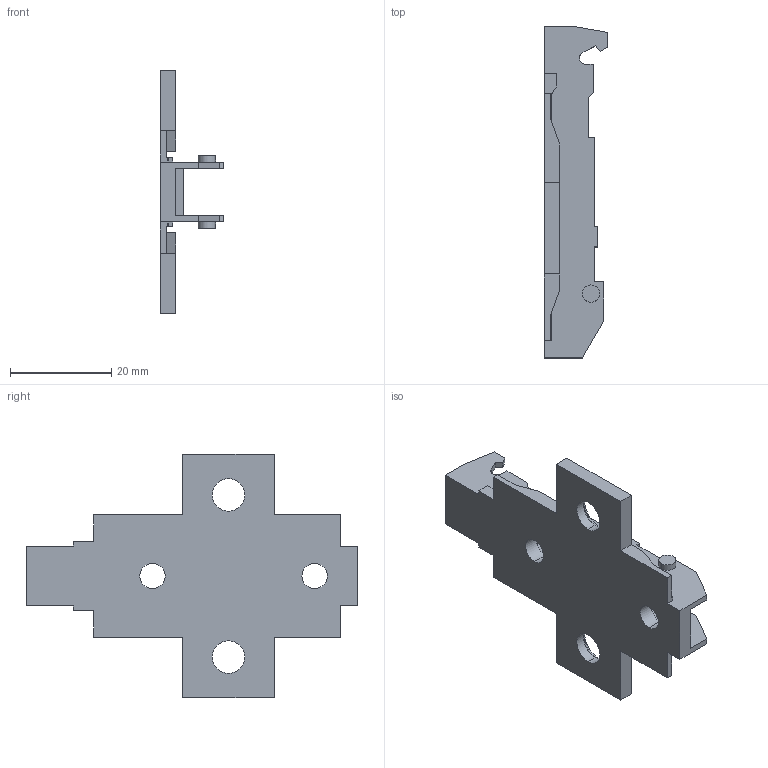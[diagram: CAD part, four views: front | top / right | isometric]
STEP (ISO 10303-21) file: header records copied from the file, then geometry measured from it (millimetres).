
FILE_DESCRIPTION (( 'STEP AP214' ), '1' );
FILE_NAME ('1D_Kreuzmontageplatte 37_32_Euro_2.step', '2010-11-18T10:18:52', ( 'grass' ), ( '' ), 'SwSTEP 2.0', 'SolidWorks 2010', '' );
FILE_SCHEMA (( 'AUTOMOTIVE_DESIGN' ));
Length unit declared in the file: millimetre
Products named in the file (1): 1D_Kreuzmontageplatte 37_32_Euro_2
Bounding box: 12.5 x 65.5 x 48 mm (x, y, z)
Volume: 5870.7 mm3; surface area: 6392.8 mm2
Topology: 1 solids, 1 shells, 110 faces, 310 edges, 204 vertices
Faces by surface type: plane 84, cylinder 22, cone 4
Entity records: 3564 total; most frequent: CARTESIAN_POINT 625, ORIENTED_EDGE 620, DIRECTION 576, EDGE_CURVE 310, LINE 266, VECTOR 266, VERTEX_POINT 204, AXIS2_PLACEMENT_3D 155
